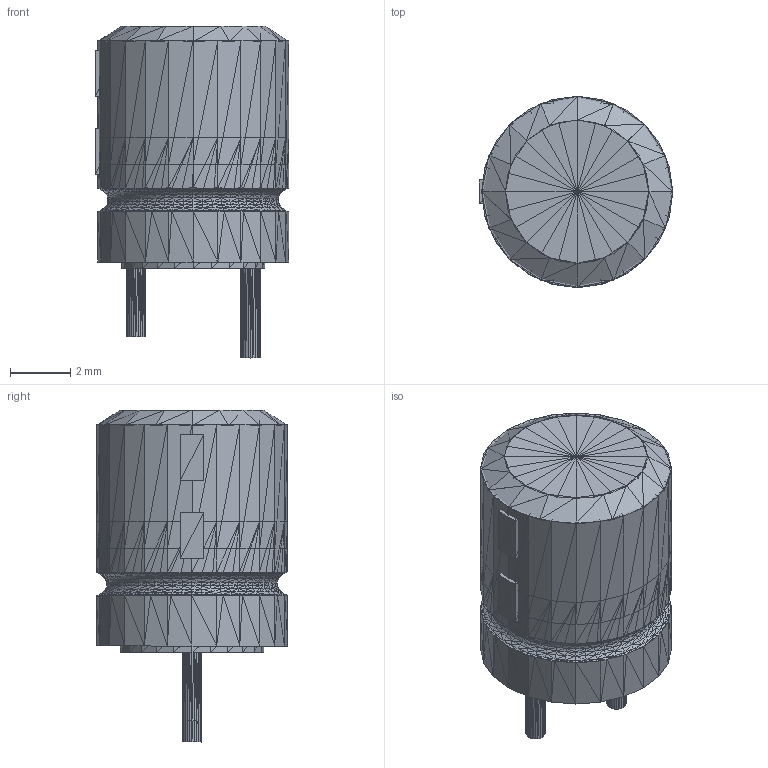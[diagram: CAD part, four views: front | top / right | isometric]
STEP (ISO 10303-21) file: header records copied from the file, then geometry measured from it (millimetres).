
FILE_DESCRIPTION(('HOOPS Exchange Step'),'2;1');
FILE_NAME('***.stp');
FILE_SCHEMA( ('AP242_MANAGED_MODEL_BASED_3D_ENGINEERING_MIM_LF {1 0 10303 442 1 1 4 }') );
Length unit declared in the file: inch
Products named in the file (10): RADPOLCAPSM2_2; RADPOLCAPSM2_3; RADPOLCAPSM2_4; RADPOLCAPSM2_5; RADPOLCAPSM2_6; RADPOLCAPSM2_7; RADPOLCAPSM2_8; RADPOLCAPSM2_9; RADPOLCAPSM2_10; RADPOLCAPSM2
Assembly tree (9 placements, depth 2):
  RADPOLCAPSM2
    RADPOLCAPSM2_2
    RADPOLCAPSM2_3
    RADPOLCAPSM2_4
    RADPOLCAPSM2_5
    RADPOLCAPSM2_6
    RADPOLCAPSM2_7
    RADPOLCAPSM2_8
    RADPOLCAPSM2_9
    RADPOLCAPSM2_10
Bounding box: 6.43 x 6.35 x 11.04 mm (x, y, z)
Surface area: 890.2 mm2 (no closed solid volume)
Topology: 0 solids, 3884 shells, 3884 faces, 9384 edges, 8894 vertices
Faces by surface type: plane 3884
Entity records: 116470 total; most frequent: CARTESIAN_POINT 22182, DIRECTION 17192, ORIENTED_EDGE 11652, VECTOR 9384, LINE 9384, EDGE_CURVE 9384, VERTEX_POINT 8894, AXIS2_PLACEMENT_3D 3904
